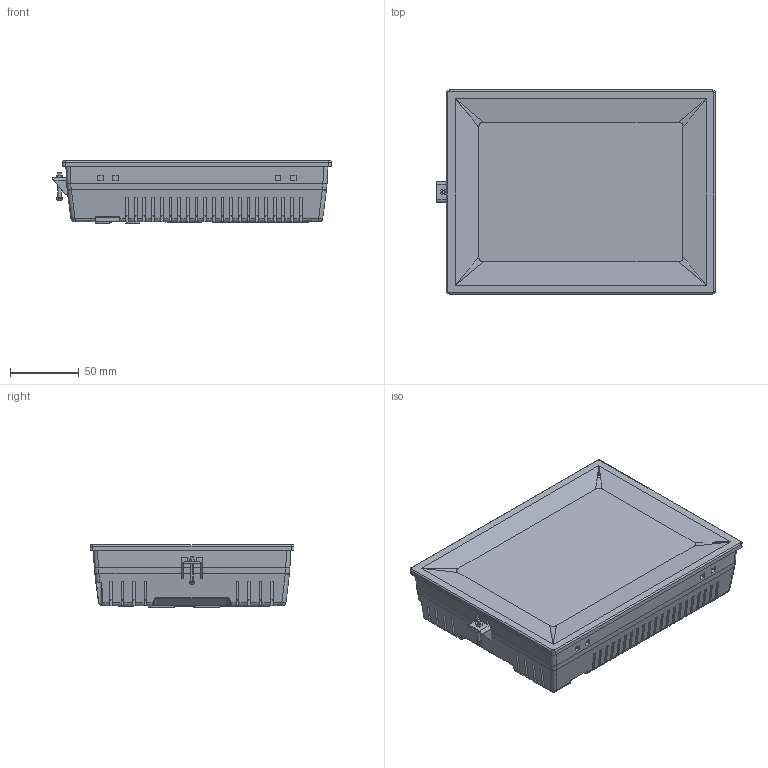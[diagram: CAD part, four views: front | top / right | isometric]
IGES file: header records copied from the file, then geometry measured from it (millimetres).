
Start section:  PTC IGES file: cu_tpc-2106.igs
Global section: file name: cu_tpc-2106.igs; native system: Pro/ENGINEER by Parametric Technology Corporation; preprocessor: 2006080; author: talbott; organization: Unknown; date: 080109.132422; units: millimetre
Bounding box: 202 x 148 x 45.4 mm (x, y, z)
Surface area: 101429 mm2 (no closed solid volume)
Topology: 0 solids, 0 shells, 1815 faces, 8999 edges, 8966 vertices
Faces by surface type: revolution 928, bspline 887
